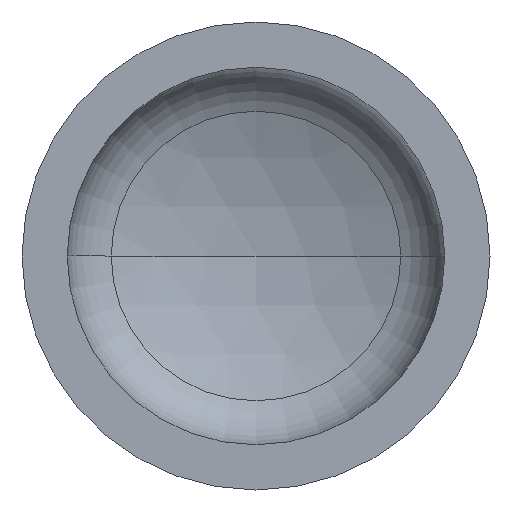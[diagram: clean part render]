
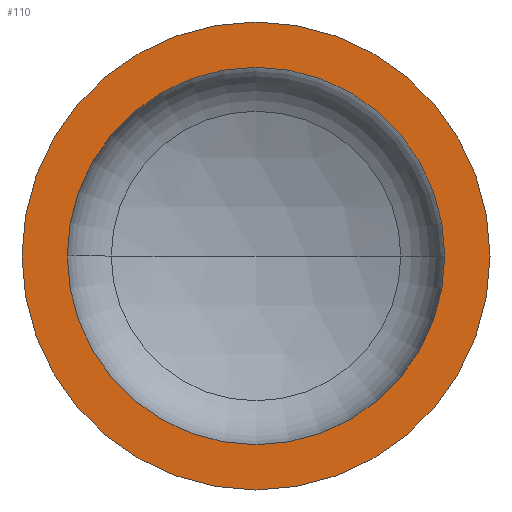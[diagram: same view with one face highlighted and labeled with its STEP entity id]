
A CAD part, front view. The second image highlights one B-rep face of the part: STEP entity #110.
In plain terms, the highlighted planar face has unit normal (0, -1, 0).
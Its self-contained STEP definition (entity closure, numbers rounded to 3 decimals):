
#14 = ORIENTED_EDGE ( 'NONE', *, *, #83, .T. ) ;
#16 = AXIS2_PLACEMENT_3D ( 'NONE', #284, #85, #310 ) ;
#30 = EDGE_LOOP ( 'NONE', ( #168, #14 ) ) ;
#42 = DIRECTION ( 'NONE',  ( -1., 0., 0. ) ) ;
#43 = VERTEX_POINT ( 'NONE', #328 ) ;
#45 = ORIENTED_EDGE ( 'NONE', *, *, #86, .F. ) ;
#48 = AXIS2_PLACEMENT_3D ( 'NONE', #216, #107, #42 ) ;
#63 = AXIS2_PLACEMENT_3D ( 'NONE', #176, #155, #146 ) ;
#65 = AXIS2_PLACEMENT_3D ( 'NONE', #84, #203, #186 ) ;
#83 = EDGE_CURVE ( 'NONE', #43, #191, #309, .T. ) ;
#84 = CARTESIAN_POINT ( 'NONE',  ( 0., 0., 0. ) ) ;
#85 = DIRECTION ( 'NONE',  ( 0., -1., 0. ) ) ;
#86 = EDGE_CURVE ( 'NONE', #126, #105, #245, .T. ) ;
#105 = VERTEX_POINT ( 'NONE', #153 ) ;
#107 = DIRECTION ( 'NONE',  ( 0., 1., 0. ) ) ;
#110 = ADVANCED_FACE ( 'NONE', ( #237, #302 ), #251, .F. ) ;
#111 = AXIS2_PLACEMENT_3D ( 'NONE', #240, #395, #264 ) ;
#113 = ORIENTED_EDGE ( 'NONE', *, *, #363, .F. ) ;
#120 = EDGE_LOOP ( 'NONE', ( #45, #113 ) ) ;
#126 = VERTEX_POINT ( 'NONE', #382 ) ;
#146 = DIRECTION ( 'NONE',  ( 1., 0., 0. ) ) ;
#153 = CARTESIAN_POINT ( 'NONE',  ( -242., 0., 0. ) ) ;
#155 = DIRECTION ( 'NONE',  ( 0., -1., 0. ) ) ;
#168 = ORIENTED_EDGE ( 'NONE', *, *, #401, .T. ) ;
#176 = CARTESIAN_POINT ( 'NONE',  ( 0., 0., 0. ) ) ;
#186 = DIRECTION ( 'NONE',  ( 1., 0., 0. ) ) ;
#191 = VERTEX_POINT ( 'NONE', #319 ) ;
#203 = DIRECTION ( 'NONE',  ( 0., -1., 0. ) ) ;
#216 = CARTESIAN_POINT ( 'NONE',  ( -300., 0., 0. ) ) ;
#237 = FACE_BOUND ( 'NONE', #120, .T. ) ;
#240 = CARTESIAN_POINT ( 'NONE',  ( 0., 0., 0. ) ) ;
#245 = CIRCLE ( 'NONE', #63, 242. ) ;
#251 = PLANE ( 'NONE',  #48 ) ;
#264 = DIRECTION ( 'NONE',  ( 1., 0., 0. ) ) ;
#284 = CARTESIAN_POINT ( 'NONE',  ( 0., 0., 0. ) ) ;
#302 = FACE_OUTER_BOUND ( 'NONE', #30, .T. ) ;
#309 = CIRCLE ( 'NONE', #65, 300. ) ;
#310 = DIRECTION ( 'NONE',  ( 1., 0., 0. ) ) ;
#319 = CARTESIAN_POINT ( 'NONE',  ( 300., 0., 0. ) ) ;
#328 = CARTESIAN_POINT ( 'NONE',  ( -300., 0., 0. ) ) ;
#363 = EDGE_CURVE ( 'NONE', #105, #126, #372, .T. ) ;
#372 = CIRCLE ( 'NONE', #16, 242. ) ;
#382 = CARTESIAN_POINT ( 'NONE',  ( 242., 0., 0. ) ) ;
#395 = DIRECTION ( 'NONE',  ( 0., -1., 0. ) ) ;
#401 = EDGE_CURVE ( 'NONE', #191, #43, #405, .T. ) ;
#405 = CIRCLE ( 'NONE', #111, 300. ) ;
